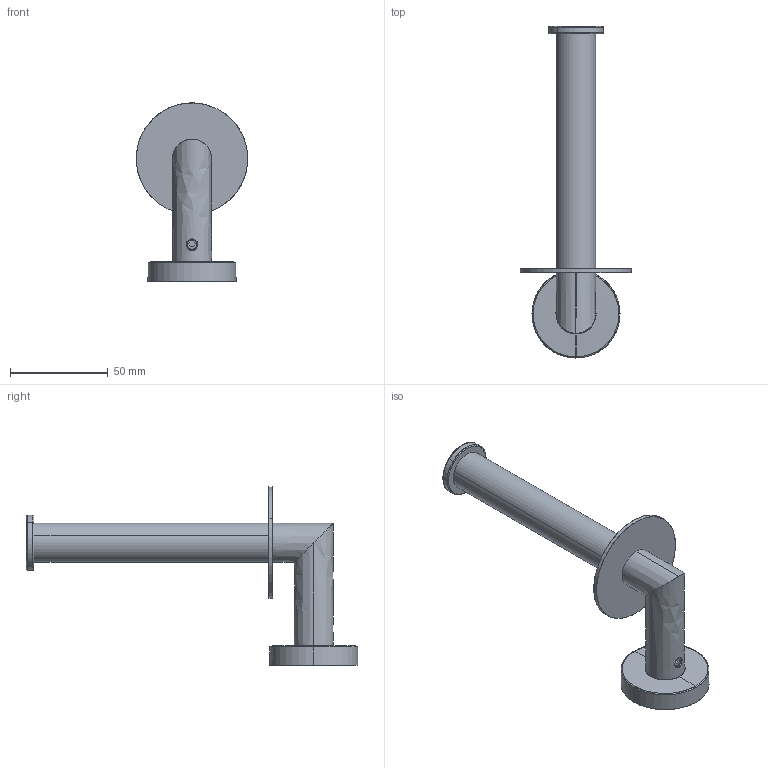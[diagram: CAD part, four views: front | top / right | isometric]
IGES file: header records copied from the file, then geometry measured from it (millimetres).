
Start section: SolidWorks IGES file using analytic representation for surfaces
Global section: file name: G:\Projects\New project\For Marketing\IGS\IGS\2015-11-27\334042002VW.IGS; native system: SolidWorks 2010; preprocessor: SolidWorks 2010; author: weijuan; date: 151130.141859; units: inch
Bounding box: 56.94 x 169.5 x 90.97 mm (x, y, z)
Surface area: 26481.2 mm2 (no closed solid volume)
Topology: 0 solids, 0 shells, 116 faces, 1621 edges, 1619 vertices
Faces by surface type: revolution 71, bspline 45
